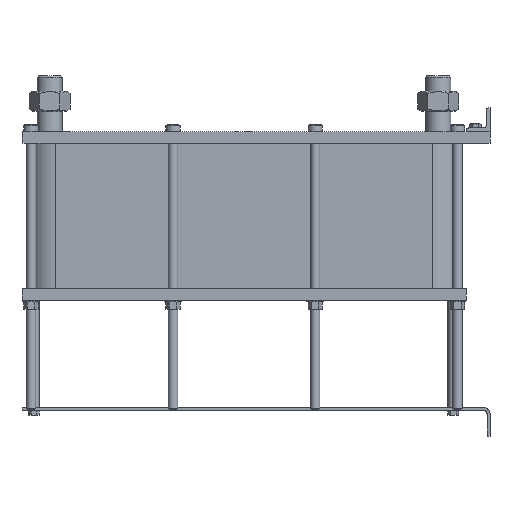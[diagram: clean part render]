
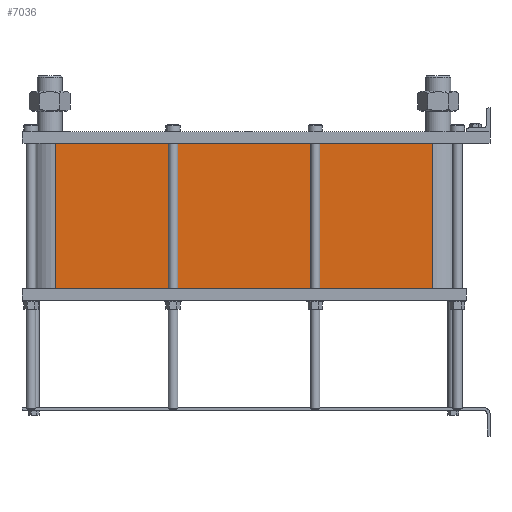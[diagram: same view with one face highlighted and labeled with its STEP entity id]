
A CAD part, left-side view. The second image highlights one B-rep face of the part: STEP entity #7036.
In plain terms, the highlighted planar face has unit normal (-1, 0, 0).
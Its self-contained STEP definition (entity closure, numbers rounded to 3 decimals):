
#999=LINE('',#15640,#1553);
#1031=LINE('',#15723,#1585);
#1032=LINE('',#15726,#1586);
#1033=LINE('',#15727,#1587);
#1553=VECTOR('',#9658,10.);
#1585=VECTOR('',#9736,10.);
#1586=VECTOR('',#9741,10.);
#1587=VECTOR('',#9742,10.);
#2117=FACE_OUTER_BOUND('',#2671,.T.);
#2671=EDGE_LOOP('',(#6246,#6247,#6248,#6249));
#3527=VERTEX_POINT('',#15634);
#3529=VERTEX_POINT('',#15638);
#3556=VERTEX_POINT('',#15720);
#3557=VERTEX_POINT('',#15722);
#4425=EDGE_CURVE('',#3529,#3527,#999,.T.);
#4466=EDGE_CURVE('',#3557,#3556,#1031,.T.);
#4468=EDGE_CURVE('',#3527,#3556,#1032,.T.);
#4469=EDGE_CURVE('',#3557,#3529,#1033,.T.);
#6246=ORIENTED_EDGE('',*,*,#4468,.F.);
#6247=ORIENTED_EDGE('',*,*,#4425,.F.);
#6248=ORIENTED_EDGE('',*,*,#4469,.F.);
#6249=ORIENTED_EDGE('',*,*,#4466,.T.);
#6608=PLANE('',#7812);
#7036=ADVANCED_FACE('',(#2117),#6608,.T.);
#7812=AXIS2_PLACEMENT_3D('',#15725,#9739,#9740);
#9658=DIRECTION('',(0.,0.,-1.));
#9736=DIRECTION('',(0.,0.,-1.));
#9739=DIRECTION('center_axis',(-1.,0.,0.));
#9740=DIRECTION('ref_axis',(0.,1.,0.));
#9741=DIRECTION('',(0.,1.,0.));
#9742=DIRECTION('',(0.,-1.,0.));
#15634=CARTESIAN_POINT('',(-72.,97.5,-244.9));
#15638=CARTESIAN_POINT('',(-72.,97.5,0.));
#15640=CARTESIAN_POINT('',(-72.,97.5,0.));
#15720=CARTESIAN_POINT('',(-72.,733.5,-244.9));
#15722=CARTESIAN_POINT('',(-72.,733.5,0.));
#15723=CARTESIAN_POINT('',(-72.,733.5,0.));
#15725=CARTESIAN_POINT('Origin',(-72.,97.5,0.));
#15726=CARTESIAN_POINT('',(-72.,256.5,-244.9));
#15727=CARTESIAN_POINT('',(-72.,733.5,0.));
